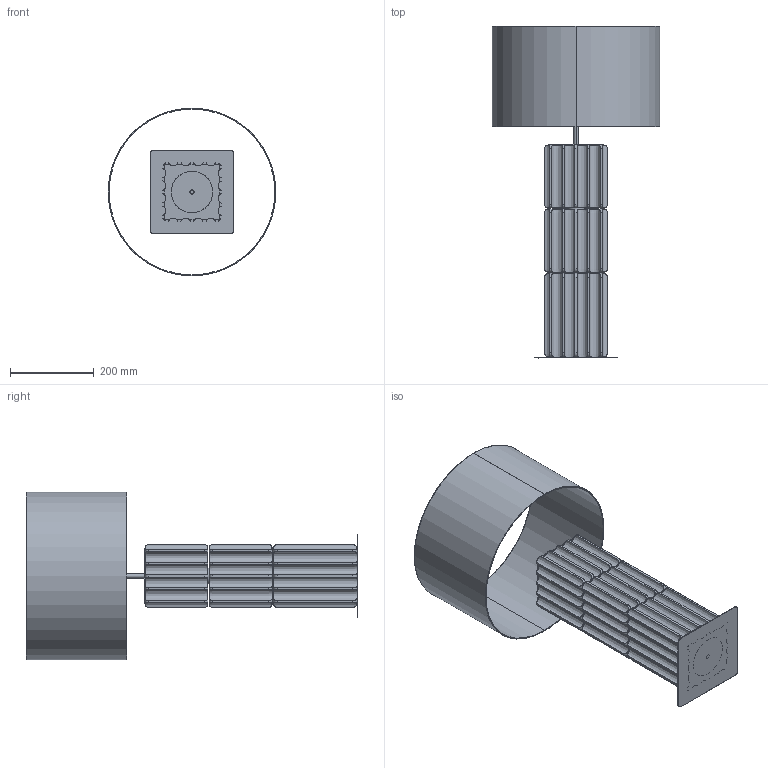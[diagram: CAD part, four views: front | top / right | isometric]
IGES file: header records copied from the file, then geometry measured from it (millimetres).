
Start section: SolidWorks IGES file using analytic representation for surfaces
Global section: file name: C:\Users\Agustin\Desktop\ENERO 2025\DENA CUADRADA\PIRE_NAC140_3.IGS; native system: SolidWorks 2018; preprocessor: SolidWorks 2018; author: Agustin; date: 250305.175547; units: millimetre
Bounding box: 400 x 792 x 400 mm (x, y, z)
Surface area: 1573973.5 mm2 (no closed solid volume)
Topology: 0 solids, 0 shells, 399 faces, 10056 edges, 10056 vertices
Faces by surface type: revolution 254, bspline 145
